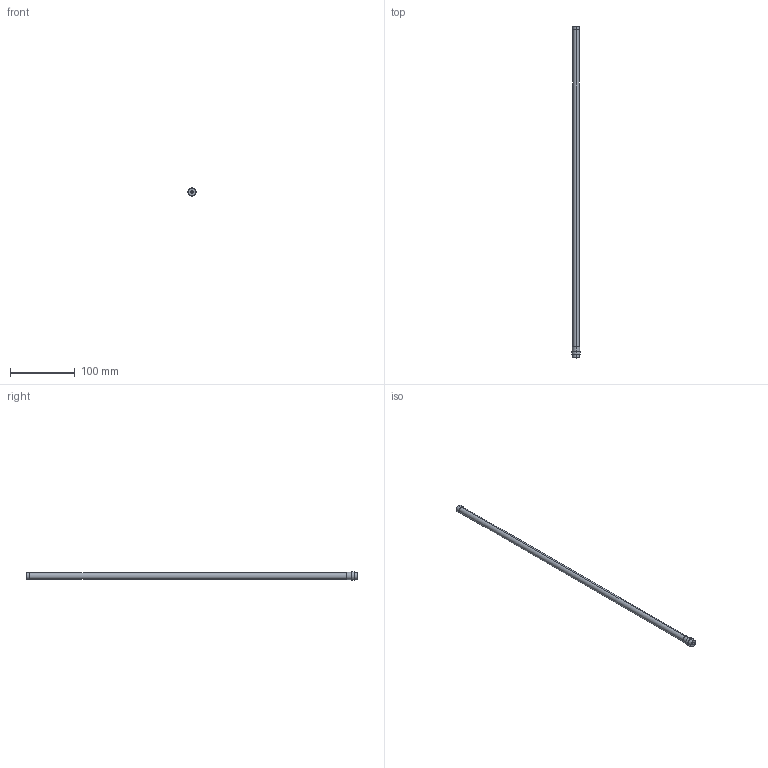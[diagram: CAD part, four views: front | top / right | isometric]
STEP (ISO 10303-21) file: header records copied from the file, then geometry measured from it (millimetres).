
FILE_DESCRIPTION (( 'STEP AP203' ), '1' );
FILE_NAME ('ER-VAK50.STEP', '2005-09-05T00:31:37', ( '' ), ( '' ), 'SwSTEP 2.0', 'SolidWorks 2004073', '' );
FILE_SCHEMA (( 'CONFIG_CONTROL_DESIGN' ));
Length unit declared in the file: millimetre
Products named in the file (1): ER-VAK50
Bounding box: 13 x 512 x 13 mm (x, y, z)
Volume: 34294.1 mm3; surface area: 22880 mm2
Topology: 1 solids, 1 shells, 18 faces, 36 edges, 24 vertices
Faces by surface type: cylinder 12, plane 6
Entity records: 565 total; most frequent: DIRECTION 98, CARTESIAN_POINT 79, ORIENTED_EDGE 72, AXIS2_PLACEMENT_3D 43, EDGE_CURVE 36, EDGE_LOOP 24, VERTEX_POINT 24, CIRCLE 24
